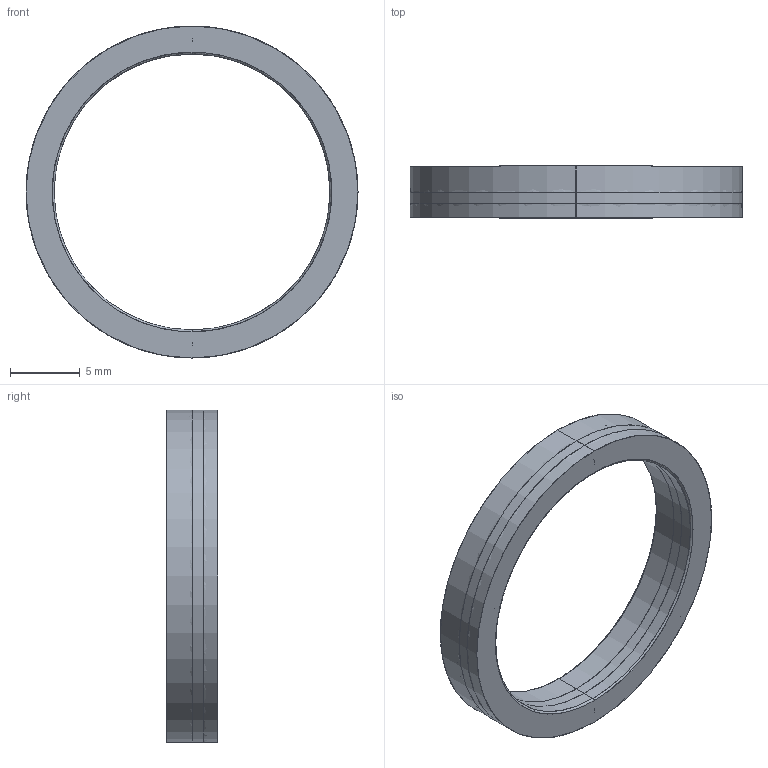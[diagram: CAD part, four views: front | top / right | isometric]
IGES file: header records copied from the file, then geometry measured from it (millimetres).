
Start section: SolidWorks IGES file using analytic representation for surfaces
Global section: file name: C:\Users\365admin\AppData\Local\Temp\InFlowConvert3DWorking\OR-116.igs; native system: SolidWorks 2019; preprocessor: SolidWorks 2019; author: 365admin; date: 220131.171025; units: inch
Bounding box: 23.75 x 3.68 x 23.75 mm (x, y, z)
Surface area: 1309 mm2 (no closed solid volume)
Topology: 0 solids, 0 shells, 18 faces, 192 edges, 192 vertices
Faces by surface type: bspline 10, revolution 8
